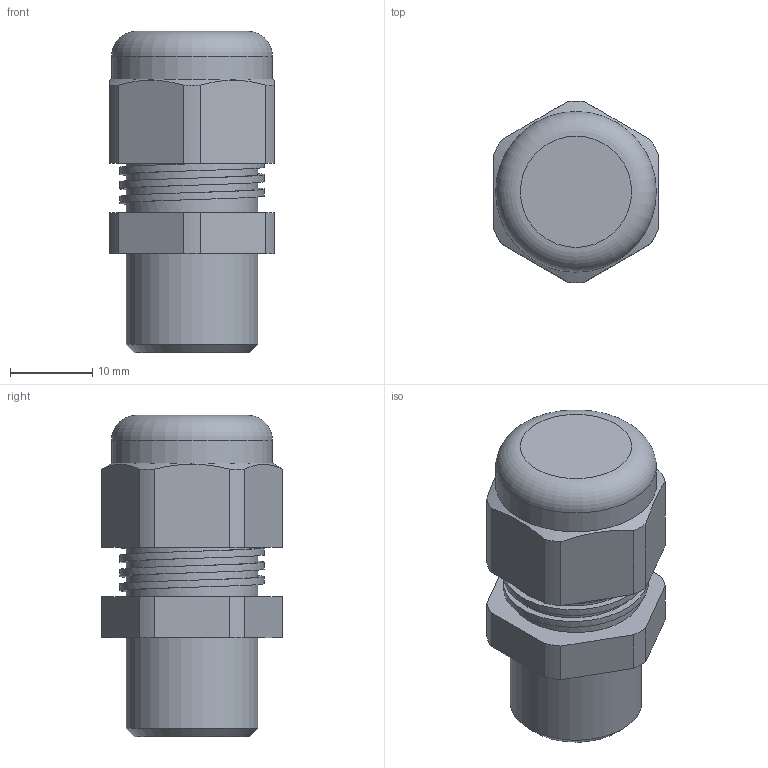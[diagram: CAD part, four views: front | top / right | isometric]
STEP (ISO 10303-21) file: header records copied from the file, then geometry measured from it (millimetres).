
FILE_DESCRIPTION((''),'2;1');
FILE_NAME('D:\WORKS\Модели\КНЕП\КНЕП01М.stp','2021-10-11T08:31:12',('v.v.tulinov'),(''),'Autodesk Inventor 2012','Autodesk Inventor 2012','');
FILE_SCHEMA(('AUTOMOTIVE_DESIGN { 1 0 10303 214 1 1 1 1 }'));
Length unit declared in the file: millimetre
Products named in the file (1): КНЕП01М_Внешний контур_1
Bounding box: 20 x 21.99 x 39 mm (x, y, z)
Volume: 10526.7 mm3; surface area: 3362 mm2
Topology: 1 solids, 1 shells, 43 faces, 112 edges, 74 vertices
Faces by surface type: plane 19, cylinder 19, cone 2, bspline 2, torus 1
Full cylindrical faces by diameter (mm): 16 x4, 19.5 x1
Entity records: 1800 total; most frequent: CARTESIAN_POINT 800, DIRECTION 191, ORIENTED_EDGE 188, EDGE_CURVE 94, AXIS2_PLACEMENT_3D 72, VERTEX_POINT 65, EDGE_LOOP 49, VECTOR 47
